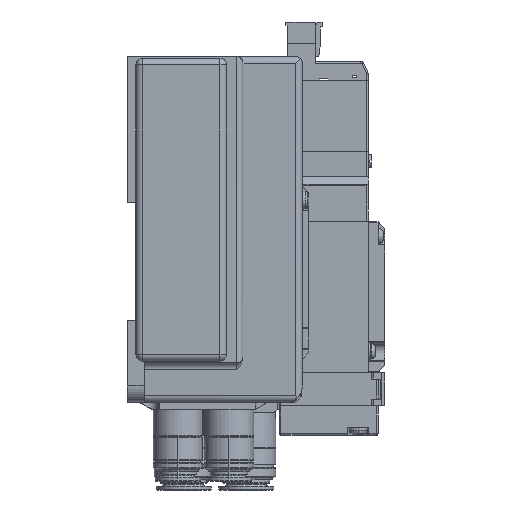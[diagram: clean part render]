
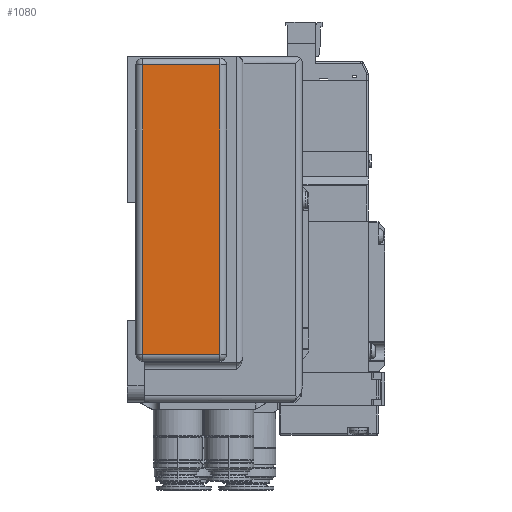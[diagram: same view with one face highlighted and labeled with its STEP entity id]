
A CAD part, left-side view. The second image highlights one B-rep face of the part: STEP entity #1080.
In plain terms, the highlighted planar face has unit normal (-1, 0, 0).
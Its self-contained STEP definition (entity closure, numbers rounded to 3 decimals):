
#1080=ADVANCED_FACE('',(#4309),#4308,.T.);
#4308=PLANE('',#10267);
#4309=FACE_OUTER_BOUND('',#10268,.T.);
#10264=CARTESIAN_POINT('',(-3.,-35.35,-37.1));
#10265=DIRECTION('',(-1.,0.,0.));
#10266=DIRECTION('',(0.,0.,1.));
#10267=AXIS2_PLACEMENT_3D('',#10264,#10265,#10266);
#10268=EDGE_LOOP('',(#23005,#23006,#23007,#23008));
#23005=ORIENTED_EDGE('',*,*,#30162,.T.);
#23006=ORIENTED_EDGE('',*,*,#30163,.T.);
#23007=ORIENTED_EDGE('',*,*,#30164,.T.);
#23008=ORIENTED_EDGE('',*,*,#30165,.T.);
#30162=EDGE_CURVE('',#40153,#40154,#40155,.T.);
#30163=EDGE_CURVE('',#40154,#40044,#40161,.T.);
#30164=EDGE_CURVE('',#40044,#40167,#40168,.T.);
#30165=EDGE_CURVE('',#40167,#40153,#40174,.T.);
#40044=VERTEX_POINT('',#50594);
#40153=VERTEX_POINT('',#50657);
#40154=VERTEX_POINT('',#50658);
#40155=LINE('',#50659,#50660);
#40161=LINE('',#50662,#50663);
#40167=VERTEX_POINT('',#50665);
#40168=LINE('',#50666,#50667);
#40174=LINE('',#50669,#50670);
#50594=CARTESIAN_POINT('',(-3.,-33.,-28.3));
#50657=CARTESIAN_POINT('',(-3.,-9.5,59.7));
#50658=CARTESIAN_POINT('',(-3.,-9.5,-28.3));
#50659=CARTESIAN_POINT('',(-3.,-9.5,59.7));
#50660=VECTOR('',#50661,88.);
#50661=DIRECTION('',(0.,0.,-1.));
#50662=CARTESIAN_POINT('',(-3.,-9.5,-28.3));
#50663=VECTOR('',#50664,23.5);
#50664=DIRECTION('',(0.,-1.,0.));
#50665=CARTESIAN_POINT('',(-3.,-33.,59.7));
#50666=CARTESIAN_POINT('',(-3.,-33.,-28.3));
#50667=VECTOR('',#50668,88.);
#50668=DIRECTION('',(0.,0.,1.));
#50669=CARTESIAN_POINT('',(-3.,-33.,59.7));
#50670=VECTOR('',#50671,23.5);
#50671=DIRECTION('',(0.,1.,0.));
